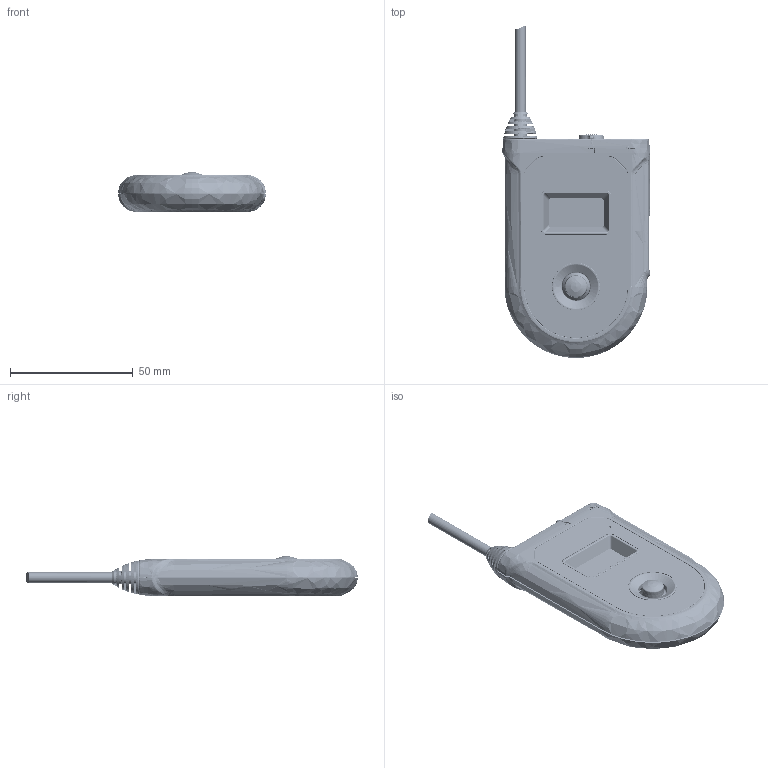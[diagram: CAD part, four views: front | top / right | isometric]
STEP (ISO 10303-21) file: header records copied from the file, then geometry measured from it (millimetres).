
FILE_DESCRIPTION(('Open CASCADE Model'),'2;1');
FILE_NAME('Open CASCADE Shape Model','2018-10-30T08:57:52',('Author'),( 'Open CASCADE'),'Open CASCADE STEP processor 6.8','Open CASCADE 6.8' ,'Unknown');
FILE_SCHEMA(('AUTOMOTIVE_DESIGN { 1 0 10303 214 1 1 1 1 }'));
Length unit declared in the file: millimetre
Products named in the file (388): PCB; Board; B2; SWI_XIEJIA_MT-008A_6P; U11; 1018005880; Extruded; C36; TAJ-A_1206_3216-8_POL; 1018002888; U13; SOT23_TO-236AA; 74311360; U12; U10; T5; QFN6-2x2x; T3; T2; SB10; R0603; 1018005744; SB9; SB8; SB7; R62; 1018003568; R61; R60; R59; R58; R57; R56; R0402; 1018003704; R55; R52; 1018003840; R51; R50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
Assembly tree (768 placements, depth 8):
  PCB
    Board
    B2
      SWI_XIEJIA_MT-008A_6P
    U11
      1018005880
        Extruded
    C36
      TAJ-A_1206_3216-8_POL
      1018002888
        Extruded
    U13
      SOT23_TO-236AA
      74311360
        Extruded
    U12
      1018005880
        Extruded
    U10
      1018005880
        Extruded
    T5
      QFN6-2x2x
    T3
      QFN6-2x2x
    T2
      QFN6-2x2x
    SB10
      R0603
      1018005744
        Extruded
    SB9
      R0603
      1018005744
        Extruded
    SB8
      R0603
      1018005744
        Extruded
    SB7
      R0603
      1018005744
        Extruded
    R62
      R0603
      1018003568
        Extruded
    R61
      R0603
      1018003568
        Extruded
    R60
      R0603
      1018003568
        Extruded
    R59
      R0603
      1018003568
        Extruded
    R58
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Bounding box: 60.24 x 135.3 x 16.25 mm (x, y, z)
Volume: 39630.3 mm3; surface area: 74867 mm2
Topology: 839 solids, 851 shells, 31856 faces, 78146 edges, 47499 vertices
Faces by surface type: plane 15615, cylinder 7407, bspline 6872, sphere 1237, cone 278, torus 240, revolution 189, extrusion 18
Full cylindrical faces by diameter (mm): 0.2 x1, 0.5 x4, 0.562 x1, 0.6 x3, 0.635 x2, 0.7 x4, 0.8 x8, 0.9 x9, 1 x36, 1.02 x7, 1.1 x1, 1.25 x1, 1.8 x2, 2 x1, 2.2 x4, 2.345 x3, 2.866 x1, 2.93 x3, 6.187 x2, 6.2 x2, 10.7 x2, 19.5 x1, 20 x1
Entity records: 479874 total; most frequent: CARTESIAN_POINT 157283, ORIENTED_EDGE 61057, DIRECTION 52280, EDGE_CURVE 30530, VECTOR 19917, LINE 19899, VERTEX_POINT 19652, AXIS2_PLACEMENT_3D 16176
